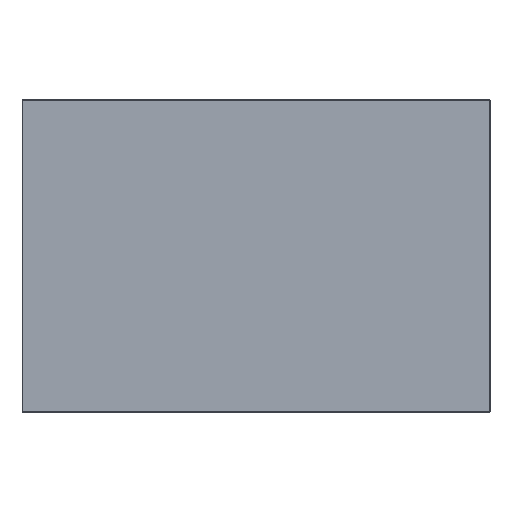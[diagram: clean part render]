
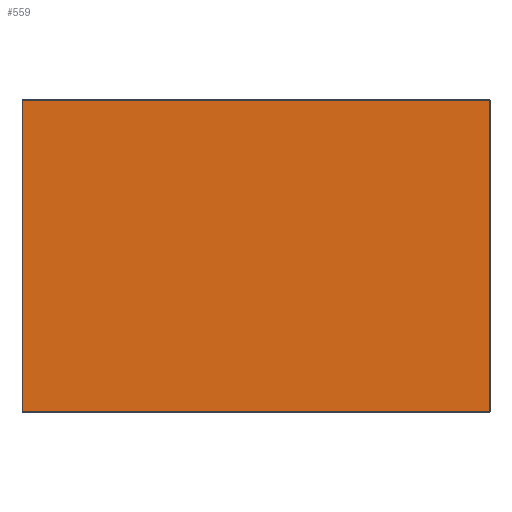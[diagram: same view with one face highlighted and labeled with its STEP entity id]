
A CAD part, top view. The second image highlights one B-rep face of the part: STEP entity #559.
In plain terms, the highlighted planar face has unit normal (0, 0, 1).
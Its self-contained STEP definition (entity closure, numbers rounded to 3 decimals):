
#7 = VERTEX_POINT ( 'NONE', #832 ) ;
#48 = CARTESIAN_POINT ( 'NONE',  ( 0., 0., 4. ) ) ;
#105 = EDGE_CURVE ( 'NONE', #593, #788, #222, .T. ) ;
#155 = DIRECTION ( 'NONE',  ( -1., 0., 0. ) ) ;
#222 = LINE ( 'NONE', #1080, #1445 ) ;
#250 = DIRECTION ( 'NONE',  ( 0., -1., 0. ) ) ;
#265 = LINE ( 'NONE', #582, #329 ) ;
#307 = DIRECTION ( 'NONE',  ( 0., 1., 0. ) ) ;
#329 = VECTOR ( 'NONE', #1363, 1000. ) ;
#343 = LINE ( 'NONE', #738, #618 ) ;
#350 = EDGE_LOOP ( 'NONE', ( #966, #1469, #451, #1049 ) ) ;
#356 = CARTESIAN_POINT ( 'NONE',  ( -599.5, 399.5, 4. ) ) ;
#374 = LINE ( 'NONE', #1269, #801 ) ;
#404 = CARTESIAN_POINT ( 'NONE',  ( -599.5, -399.5, 4. ) ) ;
#409 = PLANE ( 'NONE',  #1288 ) ;
#443 = FACE_OUTER_BOUND ( 'NONE', #350, .T. ) ;
#451 = ORIENTED_EDGE ( 'NONE', *, *, #1157, .T. ) ;
#559 = ADVANCED_FACE ( 'NONE', ( #443 ), #409, .F. ) ;
#582 = CARTESIAN_POINT ( 'NONE',  ( 0., 399.5, 4. ) ) ;
#593 = VERTEX_POINT ( 'NONE', #404 ) ;
#618 = VECTOR ( 'NONE', #307, 1000. ) ;
#738 = CARTESIAN_POINT ( 'NONE',  ( 599.5, 0., 4. ) ) ;
#788 = VERTEX_POINT ( 'NONE', #1111 ) ;
#801 = VECTOR ( 'NONE', #250, 1000. ) ;
#832 = CARTESIAN_POINT ( 'NONE',  ( 599.5, 399.5, 4. ) ) ;
#842 = DIRECTION ( 'NONE',  ( 0., 0., -1. ) ) ;
#845 = DIRECTION ( 'NONE',  ( 1., 0., 0. ) ) ;
#893 = EDGE_CURVE ( 'NONE', #7, #965, #265, .T. ) ;
#965 = VERTEX_POINT ( 'NONE', #356 ) ;
#966 = ORIENTED_EDGE ( 'NONE', *, *, #1447, .T. ) ;
#1049 = ORIENTED_EDGE ( 'NONE', *, *, #105, .T. ) ;
#1080 = CARTESIAN_POINT ( 'NONE',  ( 0., -399.5, 4. ) ) ;
#1111 = CARTESIAN_POINT ( 'NONE',  ( 599.5, -399.5, 4. ) ) ;
#1157 = EDGE_CURVE ( 'NONE', #965, #593, #374, .T. ) ;
#1269 = CARTESIAN_POINT ( 'NONE',  ( -599.5, 0., 4. ) ) ;
#1288 = AXIS2_PLACEMENT_3D ( 'NONE', #48, #842, #155 ) ;
#1363 = DIRECTION ( 'NONE',  ( -1., 0., 0. ) ) ;
#1445 = VECTOR ( 'NONE', #845, 1000. ) ;
#1447 = EDGE_CURVE ( 'NONE', #788, #7, #343, .T. ) ;
#1469 = ORIENTED_EDGE ( 'NONE', *, *, #893, .T. ) ;
